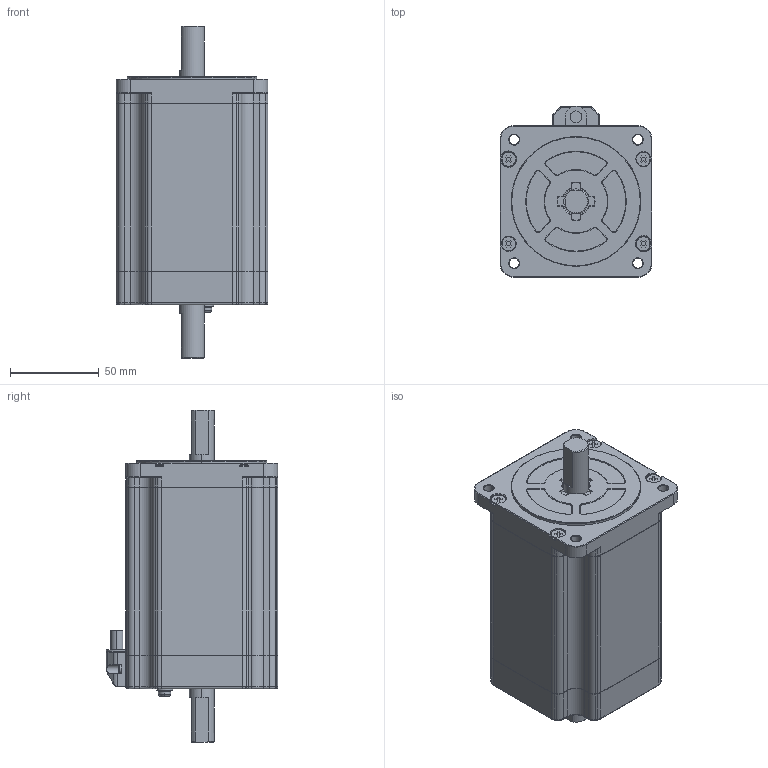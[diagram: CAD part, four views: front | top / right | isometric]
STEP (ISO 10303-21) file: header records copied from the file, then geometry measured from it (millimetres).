
FILE_DESCRIPTION (( 'STEP AP203' ), '1' );
FILE_NAME ('SM2863-5221.STEP', '2012-06-27T12:20:17', ( 'sanyodenki-admin' ), ( '' ), 'SwSTEP 2.0', 'SolidWorks 2011', '' );
FILE_SCHEMA (( 'CONFIG_CONTROL_DESIGN' ));
Length unit declared in the file: millimetre
Products named in the file (1): SM2863-5221
Bounding box: 85.5 x 96.5 x 186.9 mm (x, y, z)
Volume: 841126.6 mm3; surface area: 59348.1 mm2
Topology: 1 solids, 1 shells, 785 faces, 1979 edges, 1218 vertices
Faces by surface type: plane 296, cylinder 274, cone 149, torus 66
Entity records: 23598 total; most frequent: DIRECTION 4329, CARTESIAN_POINT 4141, ORIENTED_EDGE 3958, EDGE_CURVE 1979, AXIS2_PLACEMENT_3D 1602, VERTEX_POINT 1218, VECTOR 1125, LINE 1125
